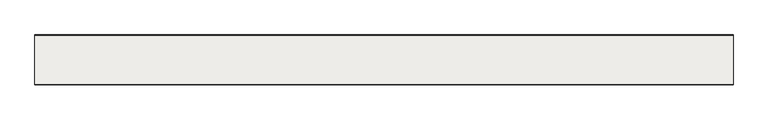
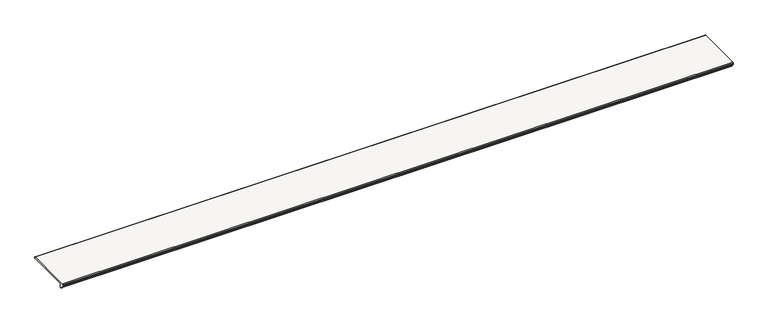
"""IFC4 building model written with IfcOpenShell, lengths in millimetres: slab geometry, ROSA GRES_J62 : Pieza J62_Tao_Beige_Anti-Slip."""

from ifc_helpers import new_model, si_unit, frame, origin, place, context, project, spatial, polyline, circle_curve, source, transform, mapped, element, save
from ifc_brep_helpers import plane_surface, cylinder_surface, revolved_surface, advanced_brep


def slab_9f0385e0(model_context):
    return source(origin(), model_context, "Body", "AdvancedBrep", [
        advanced_brep(
        [(4430.0, 317.0, 2.5), (4430.0, 317.0, 10.0774941), (4430.0, 314.2818333, 12.7946269), (4430.0, 3.9876034, 12.7946269), (4430.0, 0.0, 8.2984975), (4430.0, 0.0, -0.2793766), (4430.0, 0.7963935, -2.84429), (4430.0, 14.760096, -23.1626329), (4430.0, 17.666394, -25.1262743), (4430.0, 18.5721049, -25.1262743), (4430.0, 19.473321, -26.1221068), (4430.0, 20.3835268, -27.1188383), (4430.0, 26.7240304, -27.1188383), (4430.0, 29.4411632, -24.4017055), (4430.0, 29.4411632, -18.2354274), (4430.0, 24.5931401, -10.7276172), (4430.0, 29.6363327, 0.0), (4430.0, 314.5, 0.0), (0.0, 317.0, 2.5), (0.0, 314.5, 0.0), (0.0, 29.6363327, 0.0), (0.0, 24.5931401, -10.7276172), (0.0, 29.4411632, -18.2354274), (0.0, 29.4411632, -24.4017055), (0.0, 26.7240304, -27.1188383), (0.0, 20.3835268, -27.1188383), (0.0, 19.4823107, -26.1230058), (0.0, 18.5721049, -25.1262743), (0.0, 17.666394, -25.1262743), (0.0, 14.760096, -23.1626329), (0.0, 0.7963935, -2.84429), (0.0, 0.0, -0.2793766), (0.0, 0.0, 8.2984975), (0.0, 3.9876034, 12.7946269), (0.0, 314.2818333, 12.7946269), (0.0, 316.9989661, 10.0774941)],
        [
            (0, 1),
            (1, 2, circle_curve(frame((4430.0, 314.2818333, 10.0774941), z_axis=(1.0, 0.0, 0.0), x_axis=(0.0, -1.0, 0.0)), 2.7171328)),
            (2, 3),
            (3, 4, circle_curve(frame((4430.0, 4.5285547, 8.2984975), z_axis=(1.0, 0.0, 0.0), x_axis=(0.0, -1.0, 0.0)), 4.5285547)),
            (4, 5),
            (5, 6, circle_curve(frame((4430.0, 4.5285547, -0.2793766), z_axis=(1.0, 0.0, 0.0), x_axis=(0.0, -1.0, 0.0)), 4.5285547)),
            (6, 7),
            (7, 8, circle_curve(frame((4430.0, 18.9818017, -20.0468365), z_axis=(1.0, 0.0, 0.0), x_axis=(0.0, -1.0, 0.0)), 5.2469978)),
            (8, 9),
            (9, 10, circle_curve(frame((4430.0, 18.5721049, -26.0319852), z_axis=(-1.0, 0.0, 0.0), x_axis=(0.0, -1.0, 0.0)), 0.9057109)),
            (10, 11, circle_curve(frame((4430.0, 20.3835268, -26.2131274), z_axis=(1.0, 0.0, 0.0), x_axis=(0.0, -1.0, 0.0)), 0.9057109)),
            (11, 12),
            (12, 13, circle_curve(frame((4430.0, 26.7240304, -24.4017055), z_axis=(1.0, 0.0, 0.0), x_axis=(0.0, -1.0, 0.0)), 2.7171328)),
            (13, 14),
            (14, 15),
            (15, 16, circle_curve(frame((4430.0, 30.1604402, -6.7956336), z_axis=(-1.0, 0.0, 0.0), x_axis=(0.0, -1.0, 0.0)), 6.8158144)),
            (16, 17),
            (17, 0, circle_curve(frame((4430.0, 314.5, 2.5), z_axis=(1.0, 0.0, 0.0), x_axis=(0.0, -1.0, 0.0)), 2.5)),
            (18, 19, circle_curve(frame((0.0, 314.5, 2.5), z_axis=(-1.0, 0.0, 0.0), x_axis=(0.0, -1.0, 0.0)), 2.5)),
            (19, 20),
            (20, 21, circle_curve(frame((0.0, 30.1604402, -6.7956336), z_axis=(1.0, 0.0, 0.0), x_axis=(0.0, -1.0, 0.0)), 6.8158144)),
            (21, 22),
            (22, 23),
            (23, 24, circle_curve(frame((0.0, 26.7240304, -24.4017055), z_axis=(-1.0, 0.0, 0.0), x_axis=(0.0, -1.0, 0.0)), 2.7171328)),
            (24, 25),
            (25, 26, circle_curve(frame((0.0, 20.3835268, -26.2131274), z_axis=(-1.0, 0.0, 0.0), x_axis=(0.0, -1.0, 0.0)), 0.9057109)),
            (26, 27, circle_curve(frame((0.0, 18.5721049, -26.0319852), z_axis=(1.0, 0.0, 0.0), x_axis=(0.0, -1.0, 0.0)), 0.9057109)),
            (27, 28),
            (28, 29, circle_curve(frame((0.0, 18.9818017, -20.0468365), z_axis=(-1.0, 0.0, 0.0), x_axis=(0.0, -1.0, 0.0)), 5.2469978)),
            (29, 30),
            (30, 31, circle_curve(frame((0.0, 4.5285547, -0.2793766), z_axis=(-1.0, 0.0, 0.0), x_axis=(0.0, -1.0, 0.0)), 4.5285547)),
            (31, 32),
            (32, 33, circle_curve(frame((0.0, 4.5285547, 8.2984975), z_axis=(-1.0, 0.0, 0.0), x_axis=(0.0, -1.0, 0.0)), 4.5285547)),
            (33, 34),
            (34, 35, circle_curve(frame((0.0, 314.2818333, 10.0774941), z_axis=(-1.0, 0.0, 0.0), x_axis=(0.0, -1.0, 0.0)), 2.7171328)),
            (35, 18),
            (16, 20),
            (19, 17),
            (18, 0),
            (35, 1),
            (34, 2),
            (33, 3),
            (32, 4),
            (31, 5),
            (30, 6),
            (29, 7),
            (28, 8),
            (27, 9),
            (26, 10),
            (25, 11),
            (24, 12),
            (23, 13),
            (22, 14),
            (21, 15),
        ],
        [
            plane_surface(frame((4430.0, 317.0, 10.0774941), z_axis=(1.0, 0.0, 0.0), x_axis=(0.0, 0.0, 1.0))),
            plane_surface(frame((0.0, 317.0, 10.0774941), z_axis=(-1.0, 0.0, 0.0), x_axis=(0.0, 0.0, -1.0))),
            plane_surface(frame((4430.0, 29.6363327, 0.0), z_axis=(0.0, 0.0, -1.0), x_axis=(-1.0, 0.0, 0.0))),
            cylinder_surface(frame((0.0, 314.5, 2.5), z_axis=(1.0, 0.0, 0.0), x_axis=(0.0, -1.0, 0.0)), 2.5),
            plane_surface(frame((4430.0, 317.0, 2.5), z_axis=(0.0, 1.0, 0.0), x_axis=(-1.0, 0.0, 0.0))),
            cylinder_surface(frame((0.0, 314.2818333, 10.0774941), z_axis=(1.0, 0.0, 0.0), x_axis=(0.0, -1.0, 0.0)), 2.7171328),
            plane_surface(frame((4430.0, 314.2818333, 12.7946269), z_axis=(0.0, 0.0, 1.0), x_axis=(-1.0, 0.0, 0.0))),
            cylinder_surface(frame((0.0, 4.5285547, 8.2984975), z_axis=(1.0, 0.0, 0.0), x_axis=(0.0, -1.0, 0.0)), 4.5285547),
            plane_surface(frame((4430.0, 0.0, 8.2984975), z_axis=(0.0, -1.0, 0.0), x_axis=(-1.0, 0.0, 0.0))),
            cylinder_surface(frame((0.0, 4.5285547, -0.2793766), z_axis=(1.0, 0.0, 0.0), x_axis=(0.0, -1.0, 0.0)), 4.5285547),
            plane_surface(frame((4430.0, 0.7963935, -2.84429), z_axis=(0.0, -0.8241395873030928, -0.5663867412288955), x_axis=(-1.0, 0.0, 0.0))),
            cylinder_surface(frame((0.0, 18.9818017, -20.0468365), z_axis=(1.0, 0.0, 0.0), x_axis=(0.0, -1.0, 0.0)), 5.2469978),
            plane_surface(frame((4430.0, 17.666394, -25.1262743), z_axis=(0.0, 0.0, -1.0), x_axis=(-1.0, 0.0, 0.0))),
            revolved_surface(polyline([(0.0, 17.666394, -26.0319852), (4430.0, 17.666394, -26.0319852)]), (0.0, 18.5721049, -26.0319852), (-1.0, 0.0, 0.0)),
            cylinder_surface(frame((0.0, 20.3835268, -26.2131274), z_axis=(1.0, 0.0, 0.0), x_axis=(0.0, -1.0, 0.0)), 0.9057109),
            plane_surface(frame((4430.0, 20.3835268, -27.1188383), z_axis=(0.0, 0.0, -1.0), x_axis=(-1.0, 0.0, 0.0))),
            cylinder_surface(frame((0.0, 26.7240304, -24.4017055), z_axis=(1.0, 0.0, 0.0), x_axis=(0.0, -1.0, 0.0)), 2.7171328),
            plane_surface(frame((4430.0, 29.4411632, -24.4017055), z_axis=(0.0, 1.0, 0.0), x_axis=(-1.0, 0.0, 0.0))),
            plane_surface(frame((4430.0, 29.4411632, -18.2354274), z_axis=(0.0, 0.8400786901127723, 0.5424645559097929), x_axis=(-1.0, 0.0, 0.0))),
            revolved_surface(polyline([(0.0, 23.3446258, -6.7956336), (4430.0, 23.3446258, -6.7956336)]), (0.0, 30.1604402, -6.7956336), (-1.0, 0.0, 0.0)),
        ],
        [
            (0, [[1, 2, 3, 4, 5, 6, 7, 8, 9, 10, 11, 12, 13, 14, 15, 16, 17, 18]]),
            (1, [[19, 20, 21, 22, 23, 24, 25, 26, 27, 28, 29, 30, 31, 32, 33, 34, 35, 36]]),
            (2, [[-17, 37, -20, 38]]),
            (3, [[-18, -38, -19, 39]]),
            (4, [[-1, -39, -36, 40]]),
            (5, [[-2, -40, -35, 41]]),
            (6, [[-3, -41, -34, 42]]),
            (7, [[-4, -42, -33, 43]]),
            (8, [[-5, -43, -32, 44]]),
            (9, [[-6, -44, -31, 45]]),
            (10, [[-7, -45, -30, 46]]),
            (11, [[-8, -46, -29, 47]]),
            (12, [[-9, -47, -28, 48]]),
            (13, [[-10, -48, -27, 49]]),
            (14, [[-11, -49, -26, 50]]),
            (15, [[-12, -50, -25, 51]]),
            (16, [[-13, -51, -24, 52]]),
            (17, [[-14, -52, -23, 53]]),
            (18, [[-15, -53, -22, 54]]),
            (19, [[-16, -54, -21, -37]]),
        ],
    ),
    ])


if __name__ == "__main__":
    model = new_model("IFC4")
    model_context = context("Model", 3, world=origin())
    ifc_project = project(units=[si_unit("LENGTHUNIT", "METRE", prefix="MILLI")], contexts=[model_context])
    site = spatial("IfcSite", under=ifc_project)
    building = spatial("IfcBuilding", under=site)
    placement = place(None, origin())
    slab_shape = slab_9f0385e0(model_context)
    element("IfcSlab", 1, ObjectType="ROSA GRES_J62 : Pieza J62_Tao_Beige_Anti-Slip", at=placement, inside=building, context=model_context, shape_type="MappedRepresentation", body=[
        mapped(slab_shape, transform((0.0, 0.0, 0.0), x_axis=(1.0, 0.0, 0.0), y_axis=(0.0, 1.0, 0.0), z_axis=(0.0, 0.0, 1.0))),
    ])
    save(model, "model.ifc")
